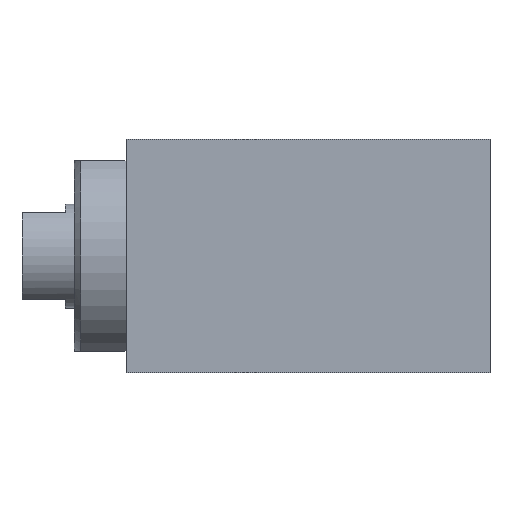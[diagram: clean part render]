
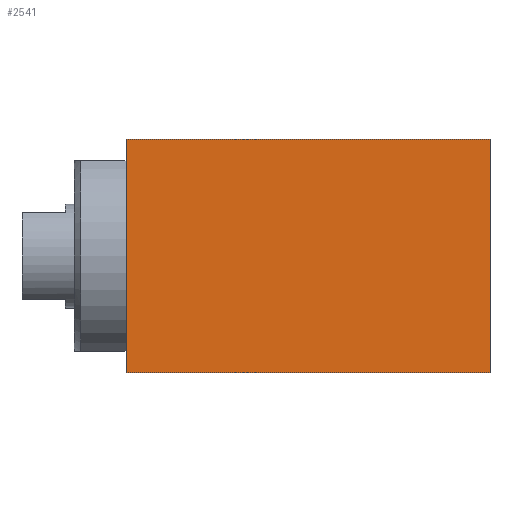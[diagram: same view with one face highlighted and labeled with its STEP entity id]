
A CAD part, front view. The second image highlights one B-rep face of the part: STEP entity #2541.
In plain terms, the highlighted planar face has unit normal (0, -1, 0).
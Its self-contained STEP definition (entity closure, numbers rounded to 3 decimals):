
#208 = EDGE_CURVE ( 'NONE', #2616, #1161, #2049, .T. ) ;
#288 = FACE_OUTER_BOUND ( 'NONE', #1568, .T. ) ;
#356 = ORIENTED_EDGE ( 'NONE', *, *, #1659, .T. ) ;
#415 = CARTESIAN_POINT ( 'NONE',  ( 0., -11.5, 6.75 ) ) ;
#482 = CARTESIAN_POINT ( 'NONE',  ( 21., -11.5, 6.75 ) ) ;
#492 = CARTESIAN_POINT ( 'NONE',  ( 21., -11.5, 6.75 ) ) ;
#535 = DIRECTION ( 'NONE',  ( 0., -1., 0. ) ) ;
#618 = CARTESIAN_POINT ( 'NONE',  ( 0., -11.5, -6.75 ) ) ;
#757 = VECTOR ( 'NONE', #2973, 1000. ) ;
#789 = VERTEX_POINT ( 'NONE', #482 ) ;
#796 = CARTESIAN_POINT ( 'NONE',  ( 21., -11.5, -6.75 ) ) ;
#811 = CARTESIAN_POINT ( 'NONE',  ( 0., -11.5, -6.75 ) ) ;
#914 = VECTOR ( 'NONE', #972, 1000. ) ;
#972 = DIRECTION ( 'NONE',  ( 0., 0., 1. ) ) ;
#1043 = VERTEX_POINT ( 'NONE', #1512 ) ;
#1161 = VERTEX_POINT ( 'NONE', #415 ) ;
#1200 = CARTESIAN_POINT ( 'NONE',  ( 21., -11.5, -6.75 ) ) ;
#1297 = AXIS2_PLACEMENT_3D ( 'NONE', #1200, #535, #2597 ) ;
#1476 = ORIENTED_EDGE ( 'NONE', *, *, #2641, .F. ) ;
#1512 = CARTESIAN_POINT ( 'NONE',  ( 21., -11.5, -6.75 ) ) ;
#1521 = ORIENTED_EDGE ( 'NONE', *, *, #208, .F. ) ;
#1568 = EDGE_LOOP ( 'NONE', ( #1521, #1476, #356, #1909 ) ) ;
#1659 = EDGE_CURVE ( 'NONE', #1043, #789, #2361, .T. ) ;
#1704 = PLANE ( 'NONE',  #1297 ) ;
#1716 = LINE ( 'NONE', #796, #2908 ) ;
#1909 = ORIENTED_EDGE ( 'NONE', *, *, #2039, .T. ) ;
#1946 = DIRECTION ( 'NONE',  ( -1., 0., 0. ) ) ;
#2039 = EDGE_CURVE ( 'NONE', #789, #1161, #2589, .T. ) ;
#2049 = LINE ( 'NONE', #618, #757 ) ;
#2095 = CARTESIAN_POINT ( 'NONE',  ( 21., -11.5, -6.75 ) ) ;
#2361 = LINE ( 'NONE', #2095, #914 ) ;
#2541 = ADVANCED_FACE ( 'NONE', ( #288 ), #1704, .T. ) ;
#2589 = LINE ( 'NONE', #492, #2645 ) ;
#2597 = DIRECTION ( 'NONE',  ( 1., 0., 0. ) ) ;
#2616 = VERTEX_POINT ( 'NONE', #811 ) ;
#2641 = EDGE_CURVE ( 'NONE', #1043, #2616, #1716, .T. ) ;
#2644 = DIRECTION ( 'NONE',  ( -1., 0., 0. ) ) ;
#2645 = VECTOR ( 'NONE', #1946, 1000. ) ;
#2908 = VECTOR ( 'NONE', #2644, 1000. ) ;
#2973 = DIRECTION ( 'NONE',  ( 0., 0., 1. ) ) ;
